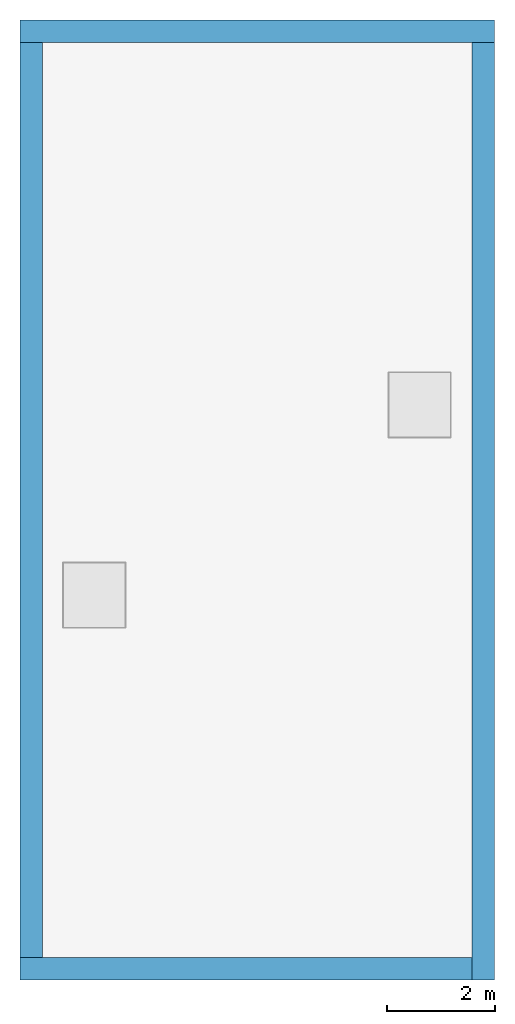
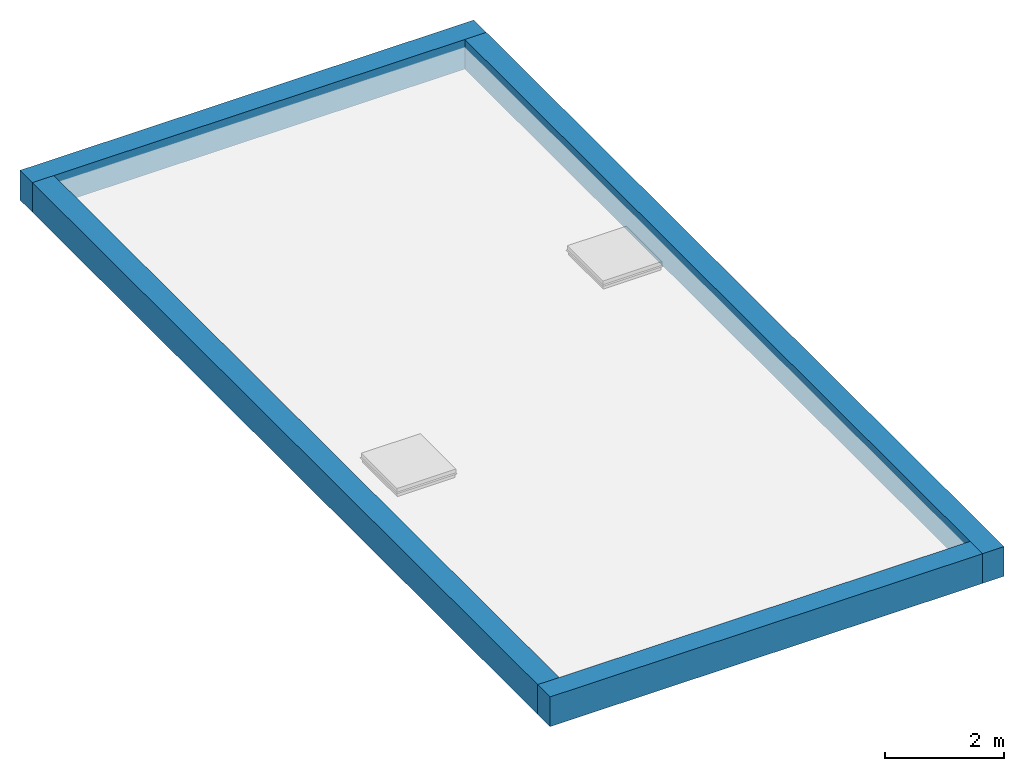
# One storey, part 1 of 2: 4 walls.
"""IFC4 building model written with IfcOpenShell, lengths in metres."""

import ifcopenshell
import ifcopenshell.guid

model = None  # the IFC model being written
_history = None  # IfcOwnerHistory: only IFC2X3 demands one
_inside = {}  # id of a spatial element -> (the spatial element, [elements in it])
_under = {}  # id of a project, library or spatial element -> (it, [spatial elements below it])
_declared = {}  # id of a project -> (the project, [libraries it declares])
_typed = {}  # id of a type object -> (the type object, [elements of that type])
_made_of = {}  # id of a material, layer set ... -> (it, [elements and type objects made of it])


def new_model(schema):
    """Start an empty IFC model of exactly this schema.

    Asked for "IFC4X3", IfcOpenShell would pick the latest addendum, in which some entities
    have other attributes; the version numbers below select the first issue.
    IFC2X3 requires an IfcOwnerHistory on every rooted entity: one is made here for all.
    """
    global model, _history
    if schema == "IFC4X3":
        model = ifcopenshell.file(schema_version=(4, 3, 0, 0))
    else:
        model = ifcopenshell.file(schema=schema)
    _inside.clear()
    _under.clear()
    _declared.clear()
    _typed.clear()
    _made_of.clear()
    _history = None
    if model.schema == "IFC2X3":
        org = make("IfcOrganization", Name="unknown")
        user = make(
            "IfcPersonAndOrganization",
            ThePerson=make("IfcPerson", FamilyName="unknown"),
            TheOrganization=org,
        )
        app = make(
            "IfcApplication",
            ApplicationDeveloper=org,
            Version="unknown",
            ApplicationFullName="unknown",
            ApplicationIdentifier="unknown",
        )
        _history = make(
            "IfcOwnerHistory",
            OwningUser=user,
            OwningApplication=app,
            ChangeAction="ADDED",
            CreationDate=0,
        )
    return model


def make(cls, **values):
    """One entity of the class cls with the attributes given. An attribute that is None is left unset."""
    return model.create_entity(
        cls, **{name: value for name, value in values.items() if value is not None}
    )


def entity(cls, *values):
    """Any entity or typed value of the class cls, its attributes in the order of the schema. None: left unset."""
    e = model.create_entity(cls)
    for i, value in enumerate(values):
        if value is not None:
            e[i] = value
    return e


def rooted(cls, **values):
    """An entity with a GlobalId (a new one), such as an element, a storey or a relation."""
    return make(cls, GlobalId=ifcopenshell.guid.new(), OwnerHistory=_history, **values)


def si_unit(unit_type, name, prefix=None):
    """IfcSIUnit, for example si_unit("LENGTHUNIT", "METRE", prefix="MILLI")."""
    return make("IfcSIUnit", UnitType=unit_type, Prefix=prefix, Name=name)


def converted_unit(unit_type, name, factor, base, dimensions=None, offset=None):
    """IfcConversionBasedUnit, such as the inch: factor (a typed value) times the base unit."""
    return make(
        "IfcConversionBasedUnit"
        if offset is None
        else "IfcConversionBasedUnitWithOffset",
        ConversionOffset=offset,
        Dimensions=None
        if dimensions is None
        else entity("IfcDimensionalExponents", *dimensions),
        UnitType=unit_type,
        Name=name,
        ConversionFactor=make(
            "IfcMeasureWithUnit", ValueComponent=factor, UnitComponent=base
        ),
    )


def assignment(units):
    """IfcUnitAssignment: the units of a project."""
    return None if units is None else make("IfcUnitAssignment", Units=units)


def point(xyz):
    """IfcCartesianPoint."""
    return None if xyz is None else make("IfcCartesianPoint", Coordinates=xyz)


def direction(xyz):
    """IfcDirection."""
    return None if xyz is None else make("IfcDirection", DirectionRatios=xyz)


def frame(location, z_axis=None, x_axis=None):
    """IfcAxis2Placement3D, a coordinate frame: its origin and axes. An axis left out is left unset."""
    return make(
        "IfcAxis2Placement3D",
        Location=point(location),
        Axis=direction(z_axis),
        RefDirection=direction(x_axis),
    )


def frame_2d(location, x_axis=None):
    """IfcAxis2Placement2D, a coordinate frame in the plane: its origin and x axis."""
    return make(
        "IfcAxis2Placement2D", Location=point(location), RefDirection=direction(x_axis)
    )


def origin():
    """The frame at (0, 0, 0) with its axes left unset."""
    return frame((0.0, 0.0, 0.0))


def place(relative_to, where):
    """IfcLocalPlacement: puts the frame where relative to a parent placement (None: the world)."""
    return make(
        "IfcLocalPlacement", PlacementRelTo=relative_to, RelativePlacement=where
    )


def context(
    kind, dimensions, precision=None, world=None, true_north=None, identifier=None
):
    """IfcGeometricRepresentationContext, for example the 3D "Model" context."""
    return make(
        "IfcGeometricRepresentationContext",
        ContextIdentifier=identifier,
        ContextType=kind,
        CoordinateSpaceDimension=dimensions,
        Precision=precision,
        WorldCoordinateSystem=world,
        TrueNorth=true_north,
    )


def project(units=None, contexts=None):
    """IfcProject with its units and contexts."""
    return rooted(
        "IfcProject",
        Name="project",
        RepresentationContexts=contexts,
        UnitsInContext=assignment(units),
    )


def spatial(cls, under=None, at=None, **own):
    """A site, building, storey or space (cls), placed at a placement, below another one or the project."""
    s = rooted(cls, ObjectPlacement=at, **own)
    if under is not None:
        _under.setdefault(under.id(), (under, []))[1].append(s)
    return s


def profile(cls, at=None, kind="AREA", **sizes):
    """A parametric profile (cls). Its sizes go by their IFC names, for example OverallWidth=200.0."""
    return make(cls, ProfileType=kind, Position=at, **sizes)


def rectangle(**sizes):
    """IfcRectangleProfileDef."""
    return profile("IfcRectangleProfileDef", **sizes)


def extrude(swept, where, along, depth):
    """IfcExtrudedAreaSolid: the profile swept, set in the frame where, extruded along a direction by depth."""
    return make(
        "IfcExtrudedAreaSolid",
        SweptArea=swept,
        Position=where,
        ExtrudedDirection=direction(along),
        Depth=depth,
    )


def shape(context_of_items, identifier, shape_type, items):
    """IfcShapeRepresentation: the items that make up one representation, for example the "Body"."""
    return make(
        "IfcShapeRepresentation",
        ContextOfItems=context_of_items,
        RepresentationIdentifier=identifier,
        RepresentationType=shape_type,
        Items=items,
    )


def material(Name=None, Category=None):
    """IfcMaterial."""
    return make("IfcMaterial", Name=Name, Category=Category)


def layer(
    of_material, thickness, ventilated=None, Name=None, Category=None, Priority=None
):
    """IfcMaterialLayer: one layer of a wall or slab, of a material (None: an air gap)."""
    return make(
        "IfcMaterialLayer",
        Material=of_material,
        LayerThickness=thickness,
        IsVentilated=ventilated,
        Name=Name,
        Category=Category,
        Priority=Priority,
    )


def layer_set(layers, Name=None):
    """IfcMaterialLayerSet."""
    return make("IfcMaterialLayerSet", MaterialLayers=layers, LayerSetName=Name)


def layer_usage(for_layer_set, set_direction, sense, offset, extent=None):
    """IfcMaterialLayerSetUsage: how a layer set lies in its element."""
    return make(
        "IfcMaterialLayerSetUsage",
        ForLayerSet=for_layer_set,
        LayerSetDirection=set_direction,
        DirectionSense=sense,
        OffsetFromReferenceLine=offset,
        ReferenceExtent=extent,
    )


def made_of(thing, what):
    """Note that an element or type object is made of a material, layer set ...; save() writes the relation."""
    if what is not None:
        _made_of.setdefault(what.id(), (what, []))[1].append(thing)
    return thing


def element(
    cls,
    number,
    at=None,
    inside=None,
    cuts=None,
    type_object=None,
    material=None,
    context=None,
    identifier="Body",
    shape_type=None,
    held_by="IfcProductDefinitionShape",
    body=None,
    shapes=None,
    **own,
):
    """One element of the class cls, such as IfcWall. Its Tag is "e" and its number.

    at: its placement. inside: the storey or other place that contains it. cuts: it is an
    opening in that element (IfcRelVoidsElement). A single representation is given by context,
    identifier, shape_type and body (its items); several are given by shapes. held_by: the class
    of the entity that holds the representations. save() writes the other relations.
    """
    e = rooted(cls, Tag="e%d" % number, ObjectPlacement=at, **own)
    if body is not None:
        shapes = [shape(context, identifier, shape_type, body)]
    if shapes is not None:
        e.Representation = make(held_by, Representations=shapes)
    if inside is not None:
        _inside.setdefault(inside.id(), (inside, []))[1].append(e)
    if cuts is not None:
        rooted(
            "IfcRelVoidsElement", RelatingBuildingElement=cuts, RelatedOpeningElement=e
        )
    if type_object is not None:
        _typed.setdefault(type_object.id(), (type_object, []))[1].append(e)
    return made_of(e, material)


def aggregate(whole, parts):
    """IfcRelAggregates: a whole, such as a stair, and the parts it consists of."""
    return rooted("IfcRelAggregates", RelatingObject=whole, RelatedObjects=parts)


def save(model, path):
    """Write the relations noted so far, then the file.

    IfcRelAggregates (storeys below a building ...), IfcRelContainedInSpatialStructure (elements
    in a storey), IfcRelDefinesByType, IfcRelAssociatesMaterial and IfcRelDeclares: one each for
    every whole, place, type object, material and project.
    """
    for whole, parts in _under.values():
        aggregate(whole, parts)
    for where, things in _inside.values():
        rooted(
            "IfcRelContainedInSpatialStructure",
            RelatedElements=things,
            RelatingStructure=where,
        )
    for kind, things in _typed.values():
        rooted("IfcRelDefinesByType", RelatedObjects=things, RelatingType=kind)
    for what, things in _made_of.values():
        rooted("IfcRelAssociatesMaterial", RelatedObjects=things, RelatingMaterial=what)
    for by, libraries in _declared.values():
        rooted("IfcRelDeclares", RelatingContext=by, RelatedDefinitions=libraries)
    model.write(path)


model = new_model("IFC4")

# Units and contexts
model_context = context("Model", 3, precision=1e-09, world=origin())
plan_context = context("Plan", 3, precision=1e-09, world=origin())
ifc_project = project(units=[si_unit("LENGTHUNIT", "METRE"), si_unit("AREAUNIT", "SQUARE_METRE"), si_unit("VOLUMEUNIT", "CUBIC_METRE"), converted_unit("PLANEANGLEUNIT", "DEGREE", entity("IfcRatioMeasure", 0.01745329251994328), si_unit("PLANEANGLEUNIT", "RADIAN"), dimensions=[0, 0, 0, 0, 0, 0, 0]), si_unit("TIMEUNIT", "SECOND")], contexts=[model_context, plan_context])

# Site, building, storey
site_placement = place(None, origin())
site = spatial("IfcSite", under=ifc_project, at=site_placement, Name="Default", CompositionType="ELEMENT")
building_placement = place(site_placement, origin())
building = spatial("IfcBuilding", under=site, at=building_placement, CompositionType="ELEMENT")
storey_placement = place(building_placement, frame((0.0, 0.0, 6.0)))
storey = spatial("IfcBuildingStorey", under=building, at=storey_placement, Name="Roof", CompositionType="ELEMENT", Elevation=6.00000000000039)

# Walls
ifc_material_1 = material(Name="Masonry - Brick")
ifc_layer_1 = layer(ifc_material_1, 0.092)
ifc_material_2 = material(Name="Misc. Air Layers - Air Space")
ifc_layer_2 = layer(ifc_material_2, 0.025)
ifc_material_3 = material(Name="Insulation / Thermal Barriers - Rigid insulation")
ifc_layer_3 = layer(ifc_material_3, 0.05)
ifc_material_4 = material(Name="Masonry - Concrete Block")
ifc_layer_4 = layer(ifc_material_4, 0.193)
ifc_material_5 = material(Name="Metal - Stud Layer")
ifc_layer_5 = layer(ifc_material_5, 0.041)
ifc_material_6 = material(Name="Plasterboard")
ifc_layer_6 = layer(ifc_material_6, 0.016)
ifc_layer_set = layer_set([ifc_layer_1, ifc_layer_2, ifc_layer_3, ifc_layer_4, ifc_layer_5, ifc_layer_6], Name="Basic Wall:Exterior - Brick on Block")
ifc_layer_usage_1 = layer_usage(ifc_layer_set, "AXIS2", "NEGATIVE", 0.2085000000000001)
wall_1_placement = place(storey_placement, frame((0.0, -0.2085000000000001, 0.0)))
element("IfcWall", 1, at=wall_1_placement, inside=storey, material=ifc_layer_usage_1, Name="Basic Wall:Exterior - Brick on Block", ObjectType="Basic Wall:Exterior - Brick on Block", PredefinedType="SOLIDWALL", context=model_context, shape_type="SweptSolid", body=[
    extrude(rectangle(XDim=8.800000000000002, YDim=0.4170000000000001, at=frame_2d((4.400000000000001, 0.0), x_axis=(-1.0, 0.0))), origin(), (0.0, 0.0, 1.0), 0.6090000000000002),
])
ifc_layer_usage_2 = layer_usage(ifc_layer_set, "AXIS2", "NEGATIVE", 0.2085000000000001)
wall_2_placement = place(storey_placement, frame((8.5915, -0.4170000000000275, 0.0), z_axis=(0.0, 0.0, 1.0), x_axis=(0.0, -1.0, 0.0)))
element("IfcWall", 2, at=wall_2_placement, inside=storey, material=ifc_layer_usage_2, Name="Basic Wall:Exterior - Brick on Block", ObjectType="Basic Wall:Exterior - Brick on Block", PredefinedType="SOLIDWALL", context=model_context, shape_type="SweptSolid", body=[
    extrude(rectangle(XDim=17.38299999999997, YDim=0.4170000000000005, at=frame_2d((8.691499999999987, 0.0), x_axis=(-1.0, 0.0))), origin(), (0.0, 0.0, 1.0), 0.6090000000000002),
])
ifc_layer_usage_3 = layer_usage(ifc_layer_set, "AXIS2", "NEGATIVE", 0.2085000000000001)
wall_3_placement = place(storey_placement, frame((8.382999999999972, -17.5915, 0.0), z_axis=(0.0, 0.0, 1.0), x_axis=(-1.0, 0.0, 0.0)))
element("IfcWall", 3, at=wall_3_placement, inside=storey, material=ifc_layer_usage_3, Name="Basic Wall:Exterior - Brick on Block", ObjectType="Basic Wall:Exterior - Brick on Block", PredefinedType="SOLIDWALL", context=model_context, shape_type="SweptSolid", body=[
    extrude(rectangle(XDim=8.382999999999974, YDim=0.4170000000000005, at=frame_2d((4.191499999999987, 0.0), x_axis=(-1.0, 0.0))), origin(), (0.0, 0.0, 1.0), 0.6090000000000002),
])
ifc_layer_usage_4 = layer_usage(ifc_layer_set, "AXIS2", "NEGATIVE", 0.2085000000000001)
wall_4_placement = place(storey_placement, frame((0.208499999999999, -17.38299999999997, 0.0), z_axis=(0.0, 0.0, 1.0), x_axis=(0.0, 1.0, 0.0)))
element("IfcWall", 4, at=wall_4_placement, inside=storey, material=ifc_layer_usage_4, Name="Basic Wall:Exterior - Brick on Block", ObjectType="Basic Wall:Exterior - Brick on Block", PredefinedType="SOLIDWALL", context=model_context, shape_type="SweptSolid", body=[
    extrude(rectangle(XDim=16.96599999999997, YDim=0.4170000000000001, at=frame_2d((8.482999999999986, 0.0), x_axis=(-1.0, 0.0))), origin(), (0.0, 0.0, 1.0), 0.6090000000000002),
])

save(model, "model.ifc")
